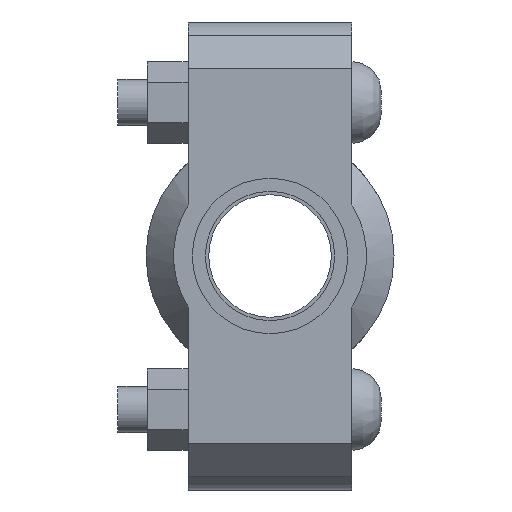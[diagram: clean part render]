
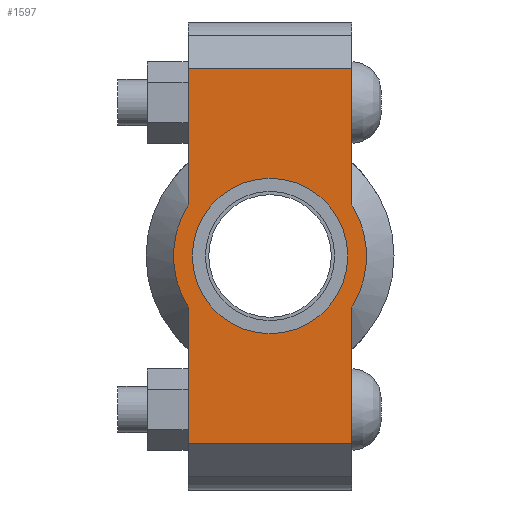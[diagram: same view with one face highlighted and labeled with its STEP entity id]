
A CAD part, left-side view. The second image highlights one B-rep face of the part: STEP entity #1597.
In plain terms, the highlighted planar face has unit normal (-1, 0, 0) as drawn and (0, 0, 1) by its records, which use the part's own axes.
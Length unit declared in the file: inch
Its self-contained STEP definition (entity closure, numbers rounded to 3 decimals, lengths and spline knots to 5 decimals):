
#152=LINE('',#2761,#249);
#167=LINE('',#2820,#264);
#175=LINE('',#2850,#272);
#177=LINE('',#2853,#274);
#178=LINE('',#2858,#275);
#179=LINE('',#2859,#276);
#249=VECTOR('',#2249,0.3937);
#264=VECTOR('',#2284,0.3937);
#272=VECTOR('',#2304,0.3937);
#274=VECTOR('',#2308,0.3937);
#275=VECTOR('',#2313,0.3937);
#276=VECTOR('',#2314,0.3937);
#340=FACE_BOUND('',#517,.T.);
#408=FACE_OUTER_BOUND('',#516,.T.);
#516=EDGE_LOOP('',(#1298,#1299,#1300,#1301,#1302,#1303,#1304,#1305));
#517=EDGE_LOOP('',(#1306));
#599=CIRCLE('',#1825,0.83);
#623=CIRCLE('',#1877,1.031);
#624=CIRCLE('',#1878,1.031);
#695=VERTEX_POINT('',#2587);
#736=VERTEX_POINT('',#2758);
#737=VERTEX_POINT('',#2760);
#758=VERTEX_POINT('',#2815);
#759=VERTEX_POINT('',#2819);
#768=VERTEX_POINT('',#2845);
#769=VERTEX_POINT('',#2849);
#770=VERTEX_POINT('',#2855);
#771=VERTEX_POINT('',#2857);
#859=EDGE_CURVE('',#695,#695,#599,.T.);
#916=EDGE_CURVE('',#737,#736,#152,.T.);
#941=EDGE_CURVE('',#759,#758,#167,.T.);
#954=EDGE_CURVE('',#769,#768,#175,.T.);
#956=EDGE_CURVE('',#769,#736,#177,.T.);
#957=EDGE_CURVE('',#768,#770,#623,.T.);
#958=EDGE_CURVE('',#770,#771,#178,.T.);
#959=EDGE_CURVE('',#759,#771,#179,.T.);
#960=EDGE_CURVE('',#758,#737,#624,.T.);
#1298=ORIENTED_EDGE('',*,*,#956,.F.);
#1299=ORIENTED_EDGE('',*,*,#954,.T.);
#1300=ORIENTED_EDGE('',*,*,#957,.T.);
#1301=ORIENTED_EDGE('',*,*,#958,.T.);
#1302=ORIENTED_EDGE('',*,*,#959,.F.);
#1303=ORIENTED_EDGE('',*,*,#941,.T.);
#1304=ORIENTED_EDGE('',*,*,#960,.T.);
#1305=ORIENTED_EDGE('',*,*,#916,.T.);
#1306=ORIENTED_EDGE('',*,*,#859,.T.);
#1437=PLANE('',#1876);
#1597=ADVANCED_FACE('',(#408,#340),#1437,.T.);
#1825=AXIS2_PLACEMENT_3D('',#2589,#2139,#2140);
#1876=AXIS2_PLACEMENT_3D('',#2854,#2309,#2310);
#1877=AXIS2_PLACEMENT_3D('',#2856,#2311,#2312);
#1878=AXIS2_PLACEMENT_3D('',#2860,#2315,#2316);
#2139=DIRECTION('center_axis',(0.,0.,-1.));
#2140=DIRECTION('ref_axis',(-1.,0.,0.));
#2249=DIRECTION('',(-1.,0.,0.));
#2284=DIRECTION('',(-1.,0.,0.));
#2304=DIRECTION('',(1.,0.,0.));
#2308=DIRECTION('',(0.,1.,0.));
#2309=DIRECTION('center_axis',(0.,0.,1.));
#2310=DIRECTION('ref_axis',(1.,0.,0.));
#2311=DIRECTION('center_axis',(0.,0.,1.));
#2312=DIRECTION('ref_axis',(-1.,0.,0.));
#2313=DIRECTION('',(1.,0.,0.));
#2314=DIRECTION('',(0.,-1.,0.));
#2315=DIRECTION('center_axis',(0.,0.,1.));
#2316=DIRECTION('ref_axis',(-1.,0.,0.));
#2587=CARTESIAN_POINT('',(0.83,0.,0.94));
#2589=CARTESIAN_POINT('Origin',(0.,0.,0.94));
#2758=CARTESIAN_POINT('',(-2.,0.875,0.94));
#2760=CARTESIAN_POINT('',(-0.54529,0.875,0.94));
#2761=CARTESIAN_POINT('',(2.5,0.875,0.94));
#2815=CARTESIAN_POINT('',(0.54529,0.875,0.94));
#2819=CARTESIAN_POINT('',(2.,0.875,0.94));
#2820=CARTESIAN_POINT('',(2.5,0.875,0.94));
#2845=CARTESIAN_POINT('',(-0.54529,-0.875,0.94));
#2849=CARTESIAN_POINT('',(-2.,-0.875,0.94));
#2850=CARTESIAN_POINT('',(-2.5,-0.875,0.94));
#2853=CARTESIAN_POINT('',(-2.,0.4375,0.94));
#2854=CARTESIAN_POINT('Origin',(0.,0.,
0.94));
#2855=CARTESIAN_POINT('',(0.54529,-0.875,0.94));
#2856=CARTESIAN_POINT('Origin',(0.,0.,0.94));
#2857=CARTESIAN_POINT('',(2.,-0.875,0.94));
#2858=CARTESIAN_POINT('',(-2.5,-0.875,0.94));
#2859=CARTESIAN_POINT('',(2.,-0.4375,0.94));
#2860=CARTESIAN_POINT('Origin',(0.,0.,0.94));
